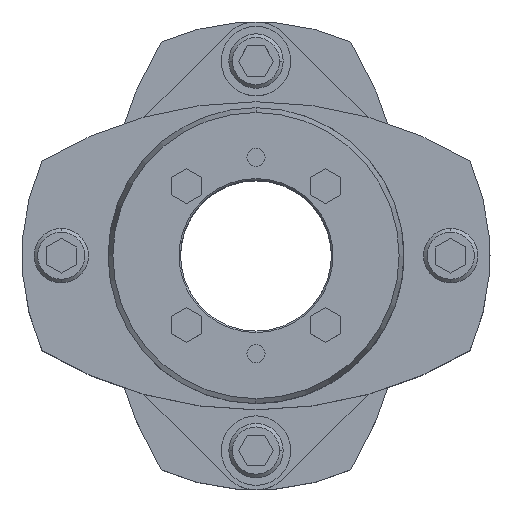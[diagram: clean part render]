
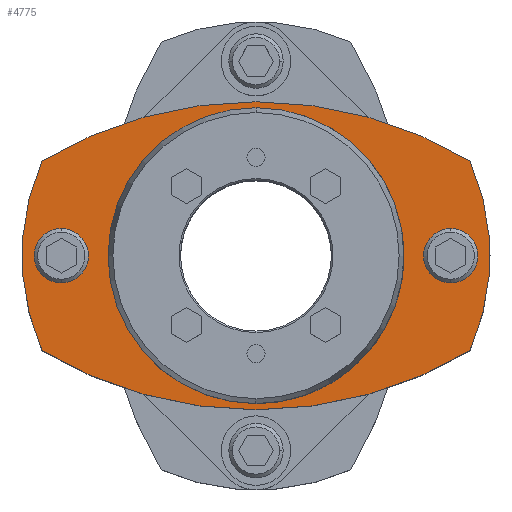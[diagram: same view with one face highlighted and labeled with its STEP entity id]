
A CAD part, top view. The second image highlights one B-rep face of the part: STEP entity #4775.
In plain terms, the highlighted planar face has unit normal (0, 0, 1).
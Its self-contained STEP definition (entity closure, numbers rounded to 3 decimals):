
#2207=CARTESIAN_POINT('',(0.,51.,42.0));
#2208=VERTEX_POINT('',#2207);
#2224=CARTESIAN_POINT('',(-70.841,31.43,42.0));
#2225=VERTEX_POINT('',#2224);
#2232=CARTESIAN_POINT('',(0.,-87.,42.0));
#2233=DIRECTION('',(0.0,0.0,-1.0));
#2234=DIRECTION('',(0.0,1.0,0.0));
#2235=AXIS2_PLACEMENT_3D('',#2232,#2233,#2234);
#2236=CIRCLE('',#2235,138.);
#2237=EDGE_CURVE('',#2225,#2208,#2236,.T.);
#2247=CARTESIAN_POINT('',(0.,-51.,42.0));
#2248=VERTEX_POINT('',#2247);
#2257=CARTESIAN_POINT('',(-70.841,-31.43,42.0));
#2258=VERTEX_POINT('',#2257);
#2259=CARTESIAN_POINT('',(0.,87.,42.0));
#2260=DIRECTION('',(0.0,0.0,-1.0));
#2261=DIRECTION('',(0.0,1.0,0.0));
#2262=AXIS2_PLACEMENT_3D('',#2259,#2260,#2261);
#2263=CIRCLE('',#2262,138.);
#2264=EDGE_CURVE('',#2248,#2258,#2263,.T.);
#2513=CARTESIAN_POINT('',(0.,38.5,42.0));
#2514=VERTEX_POINT('',#2513);
#2564=CARTESIAN_POINT('',(0.,-38.5,42.0));
#2565=VERTEX_POINT('',#2564);
#2572=CARTESIAN_POINT('',(0.,0.,42.0));
#2573=DIRECTION('',(0.0,0.0,-1.0));
#2574=DIRECTION('',(0.0,1.0,0.0));
#2575=AXIS2_PLACEMENT_3D('',#2572,#2573,#2574);
#2576=CIRCLE('',#2575,38.5);
#2577=EDGE_CURVE('',#2514,#2565,#2576,.T.);
#2673=CARTESIAN_POINT('',(-64.5,9.,42.0));
#2674=VERTEX_POINT('',#2673);
#2690=CARTESIAN_POINT('',(-64.5,-9.,42.0));
#2691=VERTEX_POINT('',#2690);
#2698=CARTESIAN_POINT('',(-64.5,0.,42.0));
#2699=DIRECTION('',(0.0,0.0,-1.0));
#2700=DIRECTION('',(0.0,1.0,0.0));
#2701=AXIS2_PLACEMENT_3D('',#2698,#2699,#2700);
#2702=CIRCLE('',#2701,9.0);
#2703=EDGE_CURVE('',#2674,#2691,#2702,.T.);
#2747=CARTESIAN_POINT('',(64.5,9.,42.0));
#2748=VERTEX_POINT('',#2747);
#2764=CARTESIAN_POINT('',(64.5,-9.,42.0));
#2765=VERTEX_POINT('',#2764);
#2772=CARTESIAN_POINT('',(64.5,0.,42.0));
#2773=DIRECTION('',(0.0,0.0,-1.0));
#2774=DIRECTION('',(0.0,1.0,0.0));
#2775=AXIS2_PLACEMENT_3D('',#2772,#2773,#2774);
#2776=CIRCLE('',#2775,9.0);
#2777=EDGE_CURVE('',#2748,#2765,#2776,.T.);
#3316=CARTESIAN_POINT('',(64.5,0.,42.0));
#3317=DIRECTION('',(0.0,0.0,-1.0));
#3318=DIRECTION('',(0.0,1.0,0.0));
#3319=AXIS2_PLACEMENT_3D('',#3316,#3317,#3318);
#3320=CIRCLE('',#3319,9.0);
#3321=EDGE_CURVE('',#2765,#2748,#3320,.T.);
#3376=CARTESIAN_POINT('',(-64.5,0.,42.0));
#3377=DIRECTION('',(0.0,0.0,-1.0));
#3378=DIRECTION('',(0.0,1.0,0.0));
#3379=AXIS2_PLACEMENT_3D('',#3376,#3377,#3378);
#3380=CIRCLE('',#3379,9.0);
#3381=EDGE_CURVE('',#2691,#2674,#3380,.T.);
#4448=CARTESIAN_POINT('',(0.,0.,42.0));
#4449=DIRECTION('',(0.0,0.0,-1.0));
#4450=DIRECTION('',(0.0,1.0,0.0));
#4451=AXIS2_PLACEMENT_3D('',#4448,#4449,#4450);
#4452=CIRCLE('',#4451,38.5);
#4453=EDGE_CURVE('',#2565,#2514,#4452,.T.);
#4669=CARTESIAN_POINT('',(70.841,31.43,42.0));
#4670=VERTEX_POINT('',#4669);
#4671=CARTESIAN_POINT('',(70.841,-31.43,42.0));
#4672=VERTEX_POINT('',#4671);
#4673=CARTESIAN_POINT('',(0.,0.,42.0));
#4674=DIRECTION('',(0.0,0.0,-1.0));
#4675=DIRECTION('',(0.0,1.0,0.0));
#4676=AXIS2_PLACEMENT_3D('',#4673,#4674,#4675);
#4677=CIRCLE('',#4676,77.5);
#4678=EDGE_CURVE('',#4670,#4672,#4677,.T.);
#4704=CARTESIAN_POINT('',(0.,87.,42.0));
#4705=DIRECTION('',(0.0,0.0,-1.0));
#4706=DIRECTION('',(0.0,1.0,0.0));
#4707=AXIS2_PLACEMENT_3D('',#4704,#4705,#4706);
#4708=CIRCLE('',#4707,138.);
#4709=EDGE_CURVE('',#4672,#2248,#4708,.T.);
#4719=CARTESIAN_POINT('',(0.,0.,42.0));
#4720=DIRECTION('',(0.0,0.0,-1.0));
#4721=DIRECTION('',(0.0,1.0,0.0));
#4722=AXIS2_PLACEMENT_3D('',#4719,#4720,#4721);
#4723=CIRCLE('',#4722,77.5);
#4724=EDGE_CURVE('',#2258,#2225,#4723,.T.);
#4738=CARTESIAN_POINT('',(0.,-87.,42.0));
#4739=DIRECTION('',(0.0,0.0,-1.0));
#4740=DIRECTION('',(0.0,1.0,0.0));
#4741=AXIS2_PLACEMENT_3D('',#4738,#4739,#4740);
#4742=CIRCLE('',#4741,138.);
#4743=EDGE_CURVE('',#2208,#4670,#4742,.T.);
#4750=CARTESIAN_POINT('',(0.,0.,42.0));
#4751=DIRECTION('',(0.0,0.0,1.0));
#4752=DIRECTION('',(0.0,1.0,0.0));
#4753=AXIS2_PLACEMENT_3D('',#4750,#4751,#4752);
#4754=PLANE('',#4753);
#4755=ORIENTED_EDGE('',*,*,#4678,.F.);
#4756=ORIENTED_EDGE('',*,*,#4743,.F.);
#4757=ORIENTED_EDGE('',*,*,#2237,.F.);
#4758=ORIENTED_EDGE('',*,*,#4724,.F.);
#4759=ORIENTED_EDGE('',*,*,#2264,.F.);
#4760=ORIENTED_EDGE('',*,*,#4709,.F.);
#4761=EDGE_LOOP('',(#4755,#4756,#4757,#4758,#4759,#4760));
#4762=FACE_OUTER_BOUND('',#4761,.T.);
#4763=ORIENTED_EDGE('',*,*,#2777,.T.);
#4764=ORIENTED_EDGE('',*,*,#3321,.T.);
#4765=EDGE_LOOP('',(#4763,#4764));
#4766=FACE_BOUND('',#4765,.T.);
#4767=ORIENTED_EDGE('',*,*,#2703,.T.);
#4768=ORIENTED_EDGE('',*,*,#3381,.T.);
#4769=EDGE_LOOP('',(#4767,#4768));
#4770=FACE_BOUND('',#4769,.T.);
#4771=ORIENTED_EDGE('',*,*,#2577,.T.);
#4772=ORIENTED_EDGE('',*,*,#4453,.T.);
#4773=EDGE_LOOP('',(#4771,#4772));
#4774=FACE_BOUND('',#4773,.T.);
#4775=ADVANCED_FACE('',(#4762,#4766,#4770,#4774),#4754,.T.);
